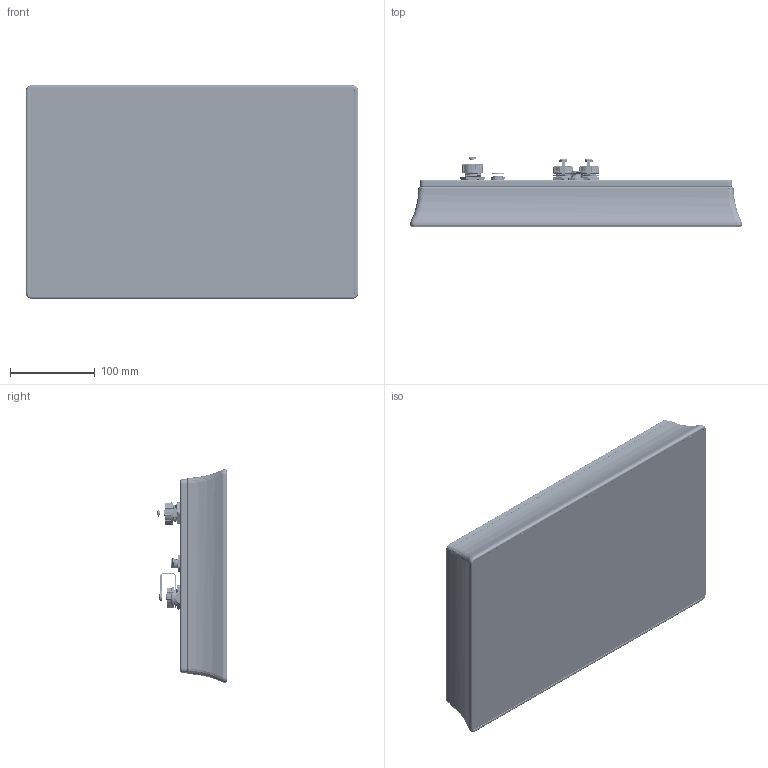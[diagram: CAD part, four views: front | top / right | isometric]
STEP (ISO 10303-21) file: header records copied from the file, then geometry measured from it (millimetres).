
FILE_DESCRIPTION(/* description */ (''),/* implementation_level */ '2;1');
FILE_NAME(/* name */ '2-A1F2-0004_KPS156PT-AMLx74-080128-00B00S-000000-KEB_Kundenmodell.iam.stp',/* time_stamp */ '2026-03-31T13:50:56+02:00',/* author */ ('TRoidl'),/* organization */ (''),/* preprocessor_version */ 'ST-DEVELOPER v20',/* originating_system */ 'Autodesk Inventor 2025',/* authorisation */ '');
FILE_SCHEMA (('AUTOMOTIVE_DESIGN { 1 0 10303 214 3 1 1 }'));
Products named in the file (1): 2-A1F2-0004_KPS156PT-AMLx74-080128-00B00S-000000-KEB.iam
Bounding box: 392.57 x 82.1 x 252.07 mm (x, y, z)
Volume: 1272646.2 mm3; surface area: 621096.9 mm2
Topology: 24 solids, 27 shells, 5298 faces, 14022 edges, 8917 vertices
Faces by surface type: plane 1707, bspline 1642, cylinder 1193, cone 347, torus 272, sphere 137
Full cylindrical faces by diameter (mm): 0.698 x1, 0.7 x2, 0.9 x1, 1 x5, 1.1 x5, 1.6 x5, 2.013 x2, 2.459 x20, 2.642 x2, 2.7 x1, 3 x11, 3.242 x26, 4 x10, 4.5 x22, 4.8 x3, 5 x2, 5.5 x6, 5.6 x1, 6.018 x1, 7 x10, 8.3 x3, 9.2 x10, 9.259 x1, 10 x16, 10.3 x1, 10.376 x1, 10.5 x1, 10.7 x6, 11.3 x1, 15.5 x2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
Entity records: 267762 total; most frequent: CARTESIAN_POINT 138790, ORIENTED_EDGE 27938, DIRECTION 22572, EDGE_CURVE 13974, VERTEX_POINT 8917, AXIS2_PLACEMENT_3D 8035, LINE 6502, VECTOR 6502
